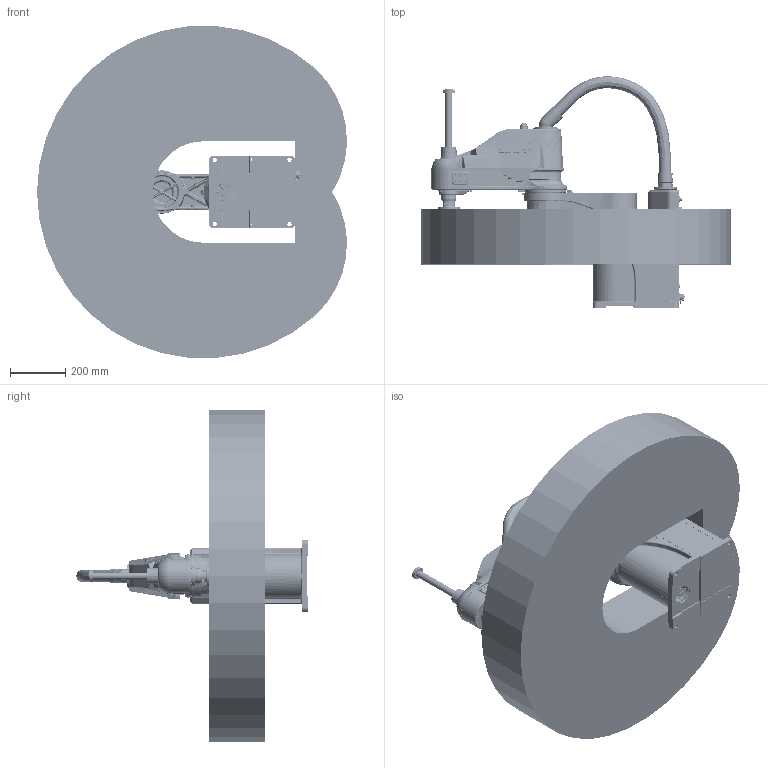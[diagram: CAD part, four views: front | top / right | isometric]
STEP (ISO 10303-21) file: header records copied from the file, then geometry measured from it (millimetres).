
FILE_DESCRIPTION (( 'STEP AP203' ), '1' );
FILE_NAME ('AH10-0600-0204-2000_V1.2.0.STEP', '2022-01-12T01:51:14', ( '' ), ( '' ), 'SwSTEP 2.0', 'SolidWorks 2017', '' );
FILE_SCHEMA (( 'CONFIG_CONTROL_DESIGN' ));
Products named in the file (7): AH10-0600-0204-2000_V1.2.0; AH10-0600-0204-2000-T1_V1.2.0; AH10-0600-0204-2000-T3_V1.2.0; AH10-0600-0204-2000-T2_V1.2.0; AH10-0600-0204-2000-T4_V1.2.0; AH10-0600-0204-2000-T5_V1.2.0; AH10-0600-0204-2000-T6_V1.2.0
Assembly tree (6 placements, depth 2):
  AH10-0600-0204-2000_V1.2.0
    AH10-0600-0204-2000-T1_V1.2.0
    AH10-0600-0204-2000-T3_V1.2.0
    AH10-0600-0204-2000-T2_V1.2.0
    AH10-0600-0204-2000-T4_V1.2.0
    AH10-0600-0204-2000-T5_V1.2.0
    AH10-0600-0204-2000-T6_V1.2.0
Bounding box: 1117.06 x 834.18 x 1196.64 mm (x, y, z)
Volume: 186940888.2 mm3; surface area: 6057717.2 mm2
Topology: 93 solids, 495 shells, 22613 faces, 62710 edges, 40429 vertices
Faces by surface type: plane 9810, cylinder 6705, bspline 3102, cone 1936, torus 617, sphere 443
Entity records: 916783 total; most frequent: CARTESIAN_POINT 370323, ORIENTED_EDGE 119285, DIRECTION 100870, EDGE_CURVE 61914, VERTEX_POINT 40407, AXIS2_PLACEMENT_3D 34384, LINE 32102, VECTOR 32102
